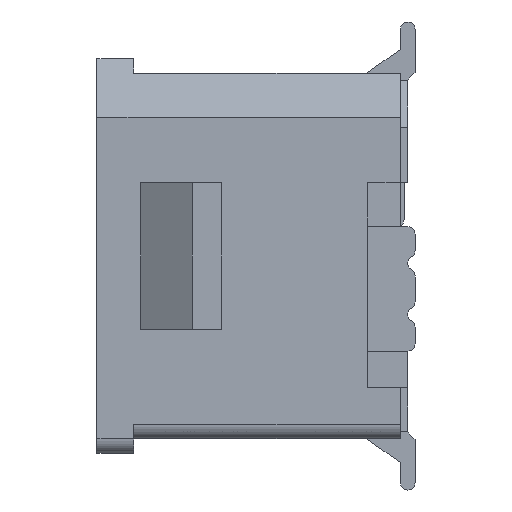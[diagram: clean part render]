
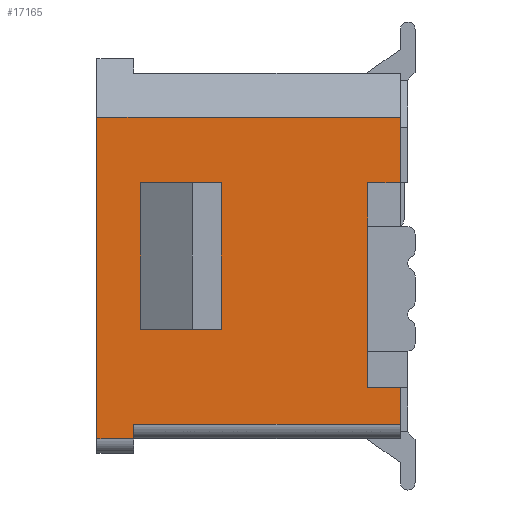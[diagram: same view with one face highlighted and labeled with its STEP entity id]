
A CAD part, left-side view. The second image highlights one B-rep face of the part: STEP entity #17165.
In plain terms, the highlighted planar face has unit normal (-1, 0, 0).
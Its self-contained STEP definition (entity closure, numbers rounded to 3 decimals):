
#1498=DIRECTION('',(0.,0.,-1.));
#1499=VECTOR('',#1498,0.2);
#1500=CARTESIAN_POINT('',(0.45,3.75,-5.));
#1501=LINE('',#1500,#1499);
#1502=DIRECTION('',(0.,1.,0.));
#1503=VECTOR('',#1502,0.5);
#1504=CARTESIAN_POINT('',(0.45,3.75,-5.2));
#1505=LINE('',#1504,#1503);
#1506=DIRECTION('',(0.,0.,1.));
#1507=VECTOR('',#1506,4.4);
#1508=CARTESIAN_POINT('',(0.45,4.25,-5.2));
#1509=LINE('',#1508,#1507);
#1510=DIRECTION('',(0.,0.,1.));
#1511=VECTOR('',#1510,0.9);
#1512=CARTESIAN_POINT('',(0.45,0.1,-1.7));
#1513=LINE('',#1512,#1511);
#1566=DIRECTION('',(0.,-1.,0.));
#1567=VECTOR('',#1566,0.45);
#1568=CARTESIAN_POINT('',(0.45,0.55,-1.7));
#1569=LINE('',#1568,#1567);
#2117=DIRECTION('',(0.,0.,1.));
#2118=VECTOR('',#2117,0.5);
#2119=CARTESIAN_POINT('',(0.45,0.1,-5.));
#2120=LINE('',#2119,#2118);
#2125=DIRECTION('',(0.,1.,0.));
#2126=VECTOR('',#2125,0.45);
#2127=CARTESIAN_POINT('',(0.45,0.1,-4.5));
#2128=LINE('',#2127,#2126);
#2133=DIRECTION('',(0.,0.,1.));
#2134=VECTOR('',#2133,2.8);
#2135=CARTESIAN_POINT('',(0.45,0.55,-4.5));
#2136=LINE('',#2135,#2134);
#3387=DIRECTION('',(0.,-1.,0.));
#3388=VECTOR('',#3387,3.65);
#3389=CARTESIAN_POINT('',(0.45,3.75,-5.));
#3390=LINE('',#3389,#3388);
#3813=DIRECTION('',(0.,1.,0.));
#3814=VECTOR('',#3813,4.15);
#3815=CARTESIAN_POINT('',(0.45,0.1,-0.8));
#3816=LINE('',#3815,#3814);
#3849=DIRECTION('',(0.,1.,0.));
#3850=VECTOR('',#3849,1.1);
#3851=CARTESIAN_POINT('',(0.45,2.55,-3.7));
#3852=LINE('',#3851,#3850);
#3857=DIRECTION('',(0.,0.,1.));
#3858=VECTOR('',#3857,2.);
#3859=CARTESIAN_POINT('',(0.45,3.65,-3.7));
#3860=LINE('',#3859,#3858);
#3861=DIRECTION('',(0.,-1.,0.));
#3862=VECTOR('',#3861,1.1);
#3863=CARTESIAN_POINT('',(0.45,3.65,-1.7));
#3864=LINE('',#3863,#3862);
#3869=DIRECTION('',(0.,0.,-1.));
#3870=VECTOR('',#3869,2.);
#3871=CARTESIAN_POINT('',(0.45,2.55,-1.7));
#3872=LINE('',#3871,#3870);
#10598=CARTESIAN_POINT('',(0.45,4.25,-0.8));
#10600=VERTEX_POINT('',#10598);
#10601=CARTESIAN_POINT('',(0.45,4.25,-5.2));
#10602=VERTEX_POINT('',#10601);
#10678=CARTESIAN_POINT('',(0.45,3.75,-5.2));
#10680=VERTEX_POINT('',#10678);
#10681=CARTESIAN_POINT('',(0.45,3.75,-5.));
#10683=VERTEX_POINT('',#10681);
#10685=CARTESIAN_POINT('',(0.45,0.55,-1.7));
#10686=CARTESIAN_POINT('',(0.45,0.1,-1.7));
#10687=VERTEX_POINT('',#10685);
#10688=VERTEX_POINT('',#10686);
#10689=CARTESIAN_POINT('',(0.45,0.55,-4.5));
#10690=VERTEX_POINT('',#10689);
#10691=CARTESIAN_POINT('',(0.45,0.1,-4.5));
#10692=VERTEX_POINT('',#10691);
#10693=CARTESIAN_POINT('',(0.45,2.55,-3.7));
#10694=CARTESIAN_POINT('',(0.45,3.65,-3.7));
#10695=VERTEX_POINT('',#10693);
#10696=VERTEX_POINT('',#10694);
#10697=CARTESIAN_POINT('',(0.45,3.65,-1.7));
#10698=VERTEX_POINT('',#10697);
#10703=CARTESIAN_POINT('',(0.45,0.1,-0.8));
#10704=VERTEX_POINT('',#10703);
#11147=CARTESIAN_POINT('',(0.45,0.1,-5.));
#11148=VERTEX_POINT('',#11147);
#11439=CARTESIAN_POINT('',(0.45,2.55,-1.7));
#11440=VERTEX_POINT('',#11439);
#17131=CARTESIAN_POINT('',(0.45,2.175,-3.));
#17132=DIRECTION('',(1.,0.,0.));
#17133=DIRECTION('',(0.,-1.,0.));
#17134=AXIS2_PLACEMENT_3D('',#17131,#17132,#17133);
#17135=PLANE('',#17134);
#17137=ORIENTED_EDGE('',*,*,#17136,.F.);
#17139=ORIENTED_EDGE('',*,*,#17138,.F.);
#17141=ORIENTED_EDGE('',*,*,#17140,.F.);
#17143=ORIENTED_EDGE('',*,*,#17142,.F.);
#17145=ORIENTED_EDGE('',*,*,#17144,.F.);
#17147=ORIENTED_EDGE('',*,*,#17146,.F.);
#17148=ORIENTED_EDGE('',*,*,#17097,.T.);
#17149=ORIENTED_EDGE('',*,*,#17126,.T.);
#17150=ORIENTED_EDGE('',*,*,#16996,.T.);
#17152=ORIENTED_EDGE('',*,*,#17151,.F.);
#17153=EDGE_LOOP('',(#17137,#17139,#17141,#17143,#17145,#17147,#17148,#17149,
#17150,#17152));
#17154=FACE_OUTER_BOUND('',#17153,.F.);
#17156=ORIENTED_EDGE('',*,*,#17155,.F.);
#17158=ORIENTED_EDGE('',*,*,#17157,.F.);
#17160=ORIENTED_EDGE('',*,*,#17159,.F.);
#17162=ORIENTED_EDGE('',*,*,#17161,.F.);
#17163=EDGE_LOOP('',(#17156,#17158,#17160,#17162));
#17164=FACE_BOUND('',#17163,.F.);
#16996=EDGE_CURVE('',#10602,#10600,#1509,.T.);
#17097=EDGE_CURVE('',#10683,#10680,#1501,.T.);
#17126=EDGE_CURVE('',#10680,#10602,#1505,.T.);
#17136=EDGE_CURVE('',#10688,#10704,#1513,.T.);
#17138=EDGE_CURVE('',#10687,#10688,#1569,.T.);
#17140=EDGE_CURVE('',#10690,#10687,#2136,.T.);
#17142=EDGE_CURVE('',#10692,#10690,#2128,.T.);
#17144=EDGE_CURVE('',#11148,#10692,#2120,.T.);
#17146=EDGE_CURVE('',#10683,#11148,#3390,.T.);
#17151=EDGE_CURVE('',#10704,#10600,#3816,.T.);
#17155=EDGE_CURVE('',#10695,#10696,#3852,.T.);
#17157=EDGE_CURVE('',#11440,#10695,#3872,.T.);
#17159=EDGE_CURVE('',#10698,#11440,#3864,.T.);
#17161=EDGE_CURVE('',#10696,#10698,#3860,.T.);
#17165=ADVANCED_FACE('',(#17154,#17164),#17135,.F.);
